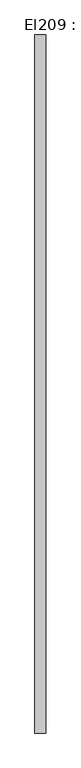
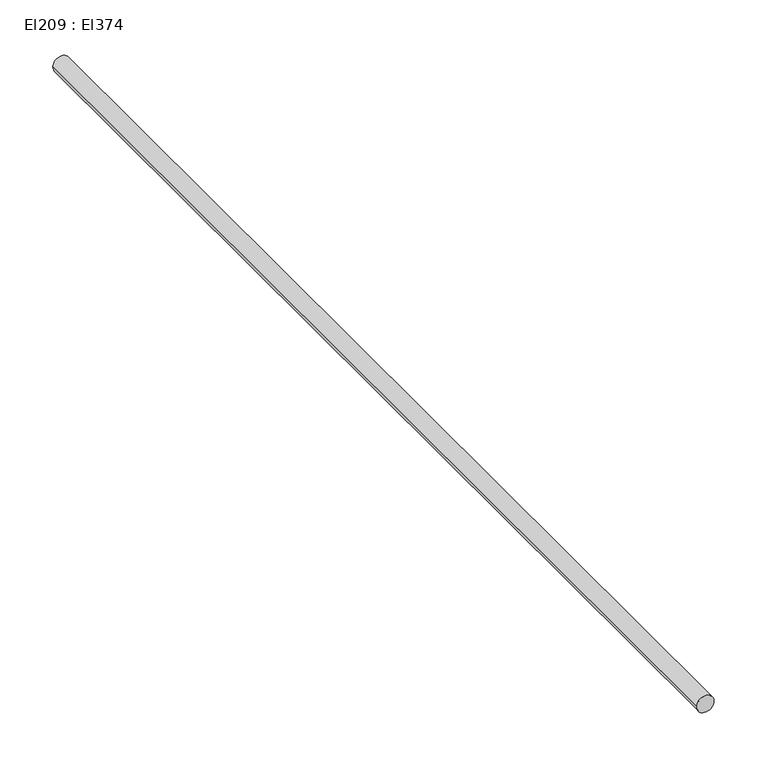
"""IFC4 building model written with IfcOpenShell, lengths in millimetres: cable carrier segment geometry, El209 : El374."""

from ifc_helpers import new_model, si_unit, point, frame, frame_2d, origin, place, context, project, spatial, circle_curve, trimmed, segment, composite_curve, outline, extrude, source, transform, mapped, element, save


def el209_el374_41653263(model_context):
    return source(origin(), model_context, "Body", "SweptSolid", [
        extrude(outline(composite_curve([segment(trimmed(circle_curve(frame_2d((1800.0, 5414.4746511)), 9.5), [point((1800.0, 5404.9746511))], [point((1800.0, 5423.9746511))], False, "CARTESIAN"), True, "CONTINUOUS"), segment(trimmed(circle_curve(frame_2d((1800.0, 5414.4746511)), 9.5), [point((1800.0, 5423.9746511))], [point((1800.0, 5404.9746511))], False, "CARTESIAN"), True, "CONTINUOUS")], self_intersect=False)), frame((0.0, 7720.3211745, 0.0), z_axis=(0.0, 1.0, 0.0), x_axis=(0.0, 0.0, 1.0)), (0.0, 0.0, 1.0), 1217.18),
    ])


if __name__ == "__main__":
    model = new_model("IFC4")
    model_context = context("Model", 3, world=origin())
    ifc_project = project(units=[si_unit("LENGTHUNIT", "METRE", prefix="MILLI")], contexts=[model_context])
    site = spatial("IfcSite", under=ifc_project)
    building = spatial("IfcBuilding", under=site)
    placement = place(None, origin())
    el209_el374_shape = el209_el374_41653263(model_context)
    element("IfcCableCarrierSegment", 1, ObjectType="El209 : El374", at=placement, inside=building, context=model_context, shape_type="MappedRepresentation", body=[
        mapped(el209_el374_shape, transform((0.0, 0.0, 0.0), x_axis=(1.0, 0.0, 0.0), y_axis=(0.0, 1.0, 0.0), z_axis=(0.0, 0.0, 1.0))),
    ])
    save(model, "model.ifc")
